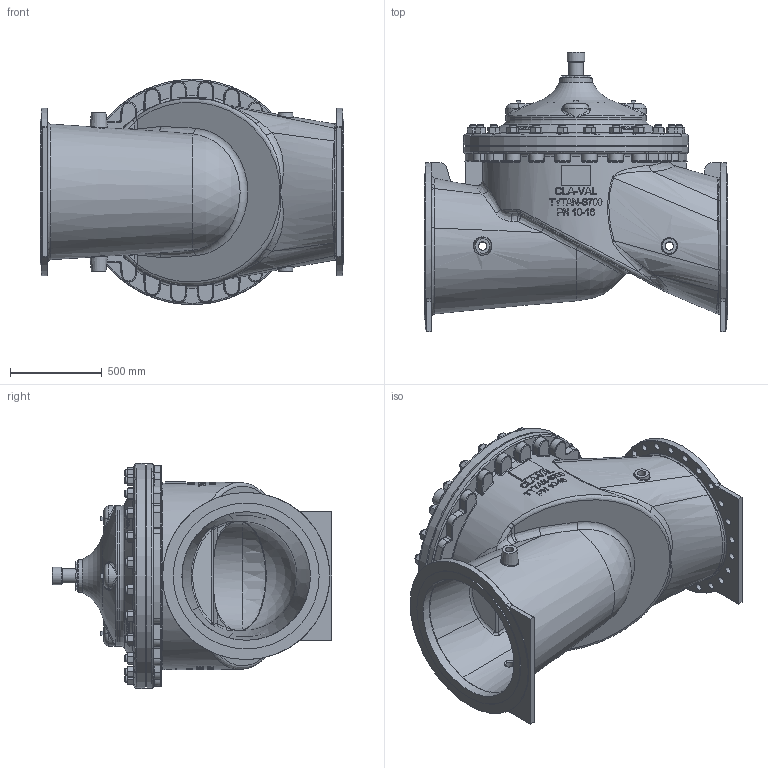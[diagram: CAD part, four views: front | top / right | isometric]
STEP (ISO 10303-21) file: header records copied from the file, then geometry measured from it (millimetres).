
FILE_DESCRIPTION(/* description */ (''),/* implementation_level */ '2;1');
FILE_NAME(/* name */ 'G:\Doc_Liberes\SymbolesCAD\Modeles_3D\FichierSTP\VanneDeBase\TytanS700-16RF.stp',/* time_stamp */ '2023-08-17T10:08:45+02:00',/* author */ ('theo'),/* organization */ (''),/* preprocessor_version */ 'ST-DEVELOPER v18.1',/* originating_system */ 'Autodesk Inventor 2022',/* authorisation */ '');
FILE_SCHEMA (('AUTOMOTIVE_DESIGN { 1 0 10303 214 3 1 1 }'));
Products named in the file (1): tytanS700-16_Simplifier_1
Bounding box: 1650 x 1519.8 x 1225 mm (x, y, z)
Volume: 228849277.5 mm3; surface area: 15912237.3 mm2
Topology: 1 solids, 1 shells, 3829 faces, 10107 edges, 6483 vertices
Faces by surface type: plane 1518, cone 1134, bspline 577, cylinder 429, torus 166, sphere 5
Full cylindrical faces by diameter (mm): 19.05 x8, 25.4 x8, 26.21 x4, 37 x24, 38.1 x48, 42 x24, 44.845 x4, 47.803 x4, 50 x24, 69.85 x24, 75 x1, 80 x1, 91 x1, 95 x1, 105 x1, 176 x1, 596 x1, 673 x1, 700 x2, 705 x2, 762 x1, 794 x2, 910 x2, 1042 x1, 1068 x1, 1200 x1, 1203.1 x1, 1225 x2
Entity records: 193739 total; most frequent: CARTESIAN_POINT 106030, ORIENTED_EDGE 20166, DIRECTION 16394, EDGE_CURVE 10083, AXIS2_PLACEMENT_3D 7159, VERTEX_POINT 6483, EDGE_LOOP 4170, CIRCLE 3883
